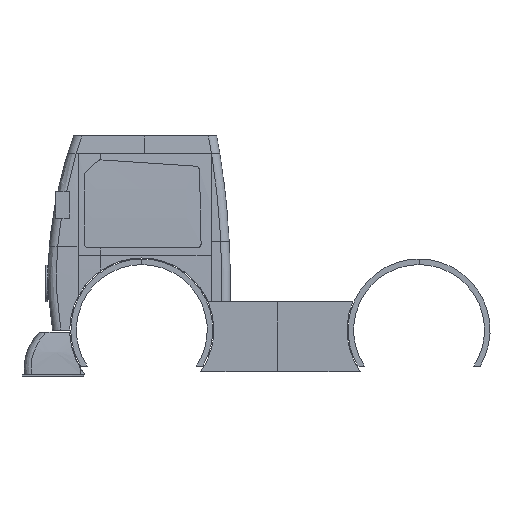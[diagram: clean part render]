
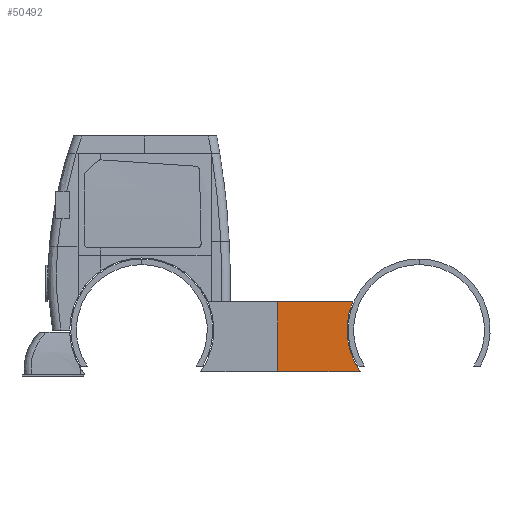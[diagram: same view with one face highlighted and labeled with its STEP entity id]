
A CAD part, front view. The second image highlights one B-rep face of the part: STEP entity #50492.
In plain terms, the highlighted planar face has unit normal (0, -1, 0).
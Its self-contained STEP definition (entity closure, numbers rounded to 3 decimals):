
#50254 = PLANE('',#50255);
#50255 = AXIS2_PLACEMENT_3D('',#50256,#50257,#50258);
#50256 = CARTESIAN_POINT('',(285.,-190.,25.));
#50257 = DIRECTION('',(-0.,0.,1.));
#50258 = DIRECTION('',(1.,0.,0.));
#50279 = VERTEX_POINT('',#50280);
#50280 = CARTESIAN_POINT('',(430.,-194.,25.));
#50294 = PLANE('',#50295);
#50295 = AXIS2_PLACEMENT_3D('',#50296,#50297,#50298);
#50296 = CARTESIAN_POINT('',(430.,-210.,0.));
#50297 = DIRECTION('',(1.,0.,-0.));
#50298 = DIRECTION('',(0.,0.,1.));
#50306 = EDGE_CURVE('',#50279,#50307,#50309,.T.);
#50307 = VERTEX_POINT('',#50308);
#50308 = CARTESIAN_POINT('',(578.816,-194.,25.));
#50309 = SURFACE_CURVE('',#50310,(#50314,#50321),.PCURVE_S1.);
#50310 = LINE('',#50311,#50312);
#50311 = CARTESIAN_POINT('',(285.,-194.,25.));
#50312 = VECTOR('',#50313,1.);
#50313 = DIRECTION('',(1.,0.,0.));
#50314 = PCURVE('',#50254,#50315);
#50315 = DEFINITIONAL_REPRESENTATION('',(#50316),#50320);
#50316 = LINE('',#50317,#50318);
#50317 = CARTESIAN_POINT('',(0.,-4.));
#50318 = VECTOR('',#50319,1.);
#50319 = DIRECTION('',(1.,0.));
#50320 = ( GEOMETRIC_REPRESENTATION_CONTEXT(2) 
PARAMETRIC_REPRESENTATION_CONTEXT() REPRESENTATION_CONTEXT('2D SPACE',''
  ) );
#50321 = PCURVE('',#50322,#50327);
#50322 = PLANE('',#50323);
#50323 = AXIS2_PLACEMENT_3D('',#50324,#50325,#50326);
#50324 = CARTESIAN_POINT('',(465.091,-194.,87.829));
#50325 = DIRECTION('',(-0.,-1.,-0.));
#50326 = DIRECTION('',(0.,0.,-1.));
#50327 = DEFINITIONAL_REPRESENTATION('',(#50328),#50332);
#50328 = LINE('',#50329,#50330);
#50329 = CARTESIAN_POINT('',(62.829,-180.091));
#50330 = VECTOR('',#50331,1.);
#50331 = DIRECTION('',(0.,1.));
#50332 = ( GEOMETRIC_REPRESENTATION_CONTEXT(2) 
PARAMETRIC_REPRESENTATION_CONTEXT() REPRESENTATION_CONTEXT('2D SPACE',''
  ) );
#50348 = CYLINDRICAL_SURFACE('',#50349,130.);
#50349 = AXIS2_PLACEMENT_3D('',#50350,#50351,#50352);
#50350 = CARTESIAN_POINT('',(685.,-240.,100.));
#50351 = DIRECTION('',(0.,1.,0.));
#50352 = DIRECTION('',(0.,-0.,1.));
#50406 = PLANE('',#50407);
#50407 = AXIS2_PLACEMENT_3D('',#50408,#50409,#50410);
#50408 = CARTESIAN_POINT('',(622.,-190.,151.));
#50409 = DIRECTION('',(-0.,-0.,-1.));
#50410 = DIRECTION('',(-1.,0.,0.));
#50444 = EDGE_CURVE('',#50307,#50445,#50447,.T.);
#50445 = VERTEX_POINT('',#50446);
#50446 = CARTESIAN_POINT('',(565.422,-194.,151.));
#50447 = SURFACE_CURVE('',#50448,(#50453,#50460),.PCURVE_S1.);
#50448 = CIRCLE('',#50449,130.);
#50449 = AXIS2_PLACEMENT_3D('',#50450,#50451,#50452);
#50450 = CARTESIAN_POINT('',(685.,-194.,100.));
#50451 = DIRECTION('',(0.,1.,0.));
#50452 = DIRECTION('',(0.,-0.,1.));
#50453 = PCURVE('',#50348,#50454);
#50454 = DEFINITIONAL_REPRESENTATION('',(#50455),#50459);
#50455 = LINE('',#50456,#50457);
#50456 = CARTESIAN_POINT('',(0.,46.));
#50457 = VECTOR('',#50458,1.);
#50458 = DIRECTION('',(1.,0.));
#50459 = ( GEOMETRIC_REPRESENTATION_CONTEXT(2) 
PARAMETRIC_REPRESENTATION_CONTEXT() REPRESENTATION_CONTEXT('2D SPACE',''
  ) );
#50460 = PCURVE('',#50322,#50461);
#50461 = DEFINITIONAL_REPRESENTATION('',(#50462),#50470);
#50462 = ( BOUNDED_CURVE() B_SPLINE_CURVE(2,(#50463,#50464,#50465,#50466
    ,#50467,#50468,#50469),.UNSPECIFIED.,.T.,.F.) 
B_SPLINE_CURVE_WITH_KNOTS((1,2,2,2,2,1),(-2.094,0.,
    2.094,4.189,6.283,8.378),
.UNSPECIFIED.) CURVE() GEOMETRIC_REPRESENTATION_ITEM() 
RATIONAL_B_SPLINE_CURVE((1.,0.5,1.,0.5,1.,0.5,1.)) REPRESENTATION_ITEM(
  '') );
#50463 = CARTESIAN_POINT('',(-142.171,219.909));
#50464 = CARTESIAN_POINT('',(-142.171,445.075));
#50465 = CARTESIAN_POINT('',(52.829,332.492));
#50466 = CARTESIAN_POINT('',(247.829,219.909));
#50467 = CARTESIAN_POINT('',(52.829,107.325));
#50468 = CARTESIAN_POINT('',(-142.171,-5.258));
#50469 = CARTESIAN_POINT('',(-142.171,219.909));
#50470 = ( GEOMETRIC_REPRESENTATION_CONTEXT(2) 
PARAMETRIC_REPRESENTATION_CONTEXT() REPRESENTATION_CONTEXT('2D SPACE',''
  ) );
#50492 = ADVANCED_FACE('',(#50493),#50322,.T.);
#50493 = FACE_BOUND('',#50494,.T.);
#50494 = EDGE_LOOP('',(#50495,#50496,#50519,#50540));
#50495 = ORIENTED_EDGE('',*,*,#50444,.T.);
#50496 = ORIENTED_EDGE('',*,*,#50497,.T.);
#50497 = EDGE_CURVE('',#50445,#50498,#50500,.T.);
#50498 = VERTEX_POINT('',#50499);
#50499 = CARTESIAN_POINT('',(430.,-194.,151.));
#50500 = SURFACE_CURVE('',#50501,(#50505,#50512),.PCURVE_S1.);
#50501 = LINE('',#50502,#50503);
#50502 = CARTESIAN_POINT('',(622.,-194.,151.));
#50503 = VECTOR('',#50504,1.);
#50504 = DIRECTION('',(-1.,0.,0.));
#50505 = PCURVE('',#50322,#50506);
#50506 = DEFINITIONAL_REPRESENTATION('',(#50507),#50511);
#50507 = LINE('',#50508,#50509);
#50508 = CARTESIAN_POINT('',(-63.171,156.909));
#50509 = VECTOR('',#50510,1.);
#50510 = DIRECTION('',(0.,-1.));
#50511 = ( GEOMETRIC_REPRESENTATION_CONTEXT(2) 
PARAMETRIC_REPRESENTATION_CONTEXT() REPRESENTATION_CONTEXT('2D SPACE',''
  ) );
#50512 = PCURVE('',#50406,#50513);
#50513 = DEFINITIONAL_REPRESENTATION('',(#50514),#50518);
#50514 = LINE('',#50515,#50516);
#50515 = CARTESIAN_POINT('',(0.,-4.));
#50516 = VECTOR('',#50517,1.);
#50517 = DIRECTION('',(1.,0.));
#50518 = ( GEOMETRIC_REPRESENTATION_CONTEXT(2) 
PARAMETRIC_REPRESENTATION_CONTEXT() REPRESENTATION_CONTEXT('2D SPACE',''
  ) );
#50519 = ORIENTED_EDGE('',*,*,#50520,.F.);
#50520 = EDGE_CURVE('',#50279,#50498,#50521,.T.);
#50521 = SURFACE_CURVE('',#50522,(#50526,#50533),.PCURVE_S1.);
#50522 = LINE('',#50523,#50524);
#50523 = CARTESIAN_POINT('',(430.,-194.,43.915));
#50524 = VECTOR('',#50525,1.);
#50525 = DIRECTION('',(0.,-0.,1.));
#50526 = PCURVE('',#50322,#50527);
#50527 = DEFINITIONAL_REPRESENTATION('',(#50528),#50532);
#50528 = LINE('',#50529,#50530);
#50529 = CARTESIAN_POINT('',(43.915,-35.091));
#50530 = VECTOR('',#50531,1.);
#50531 = DIRECTION('',(-1.,0.));
#50532 = ( GEOMETRIC_REPRESENTATION_CONTEXT(2) 
PARAMETRIC_REPRESENTATION_CONTEXT() REPRESENTATION_CONTEXT('2D SPACE',''
  ) );
#50533 = PCURVE('',#50294,#50534);
#50534 = DEFINITIONAL_REPRESENTATION('',(#50535),#50539);
#50535 = LINE('',#50536,#50537);
#50536 = CARTESIAN_POINT('',(43.915,-16.));
#50537 = VECTOR('',#50538,1.);
#50538 = DIRECTION('',(1.,0.));
#50539 = ( GEOMETRIC_REPRESENTATION_CONTEXT(2) 
PARAMETRIC_REPRESENTATION_CONTEXT() REPRESENTATION_CONTEXT('2D SPACE',''
  ) );
#50540 = ORIENTED_EDGE('',*,*,#50306,.T.);
